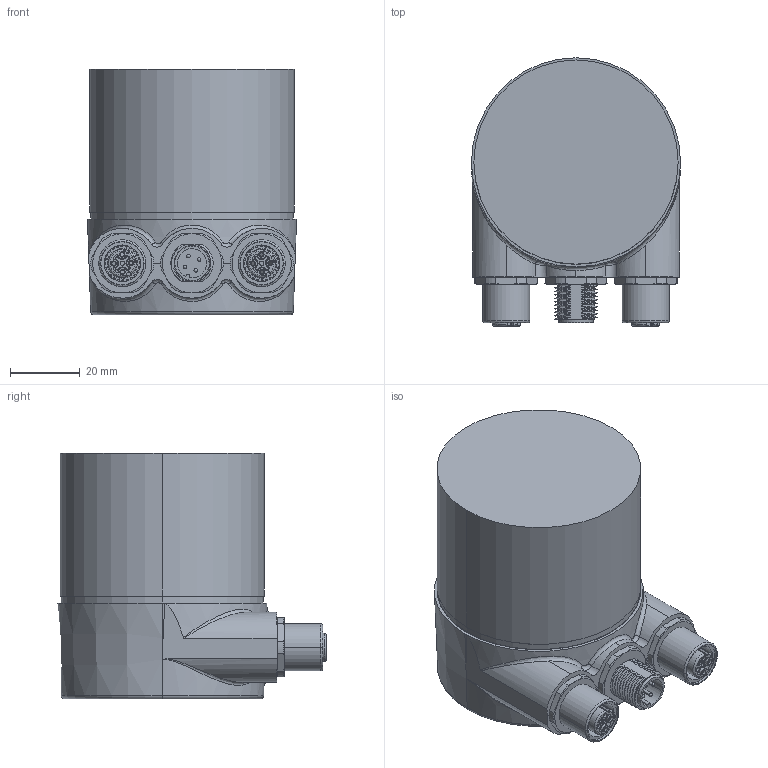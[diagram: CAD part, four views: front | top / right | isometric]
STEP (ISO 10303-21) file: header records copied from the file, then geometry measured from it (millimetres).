
FILE_DESCRIPTION (( 'STEP AP203' ), '1' );
FILE_NAME ('Drawing-OC-5-E2-705-SZM-E2RE2R-Y-PRM-N.STEP', '2013-04-09T11:18:38', ( '' ), ( '' ), 'SwSTEP 2.0', 'SolidWorks 2006104', '' );
FILE_SCHEMA (( 'CONFIG_CONTROL_DESIGN' ));
Length unit declared in the file: millimetre
Products named in the file (1): Drawing-OC-5-E2-705-SZM-E2RE2R-Y-PRM-N
Bounding box: 60 x 77 x 70.5 mm (x, y, z)
Volume: 53873 mm3; surface area: 56109.4 mm2
Topology: 12 solids, 12 shells, 1415 faces, 3800 edges, 2486 vertices
Faces by surface type: cylinder 632, plane 339, cone 243, bspline 140, torus 57, sphere 4
Entity records: 73199 total; most frequent: CARTESIAN_POINT 39359, ORIENTED_EDGE 7560, DIRECTION 6589, EDGE_CURVE 3780, AXIS2_PLACEMENT_3D 2659, VERTEX_POINT 2478, EDGE_LOOP 1556, FACE_OUTER_BOUND 1415
